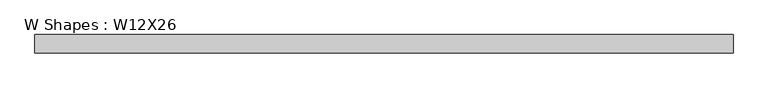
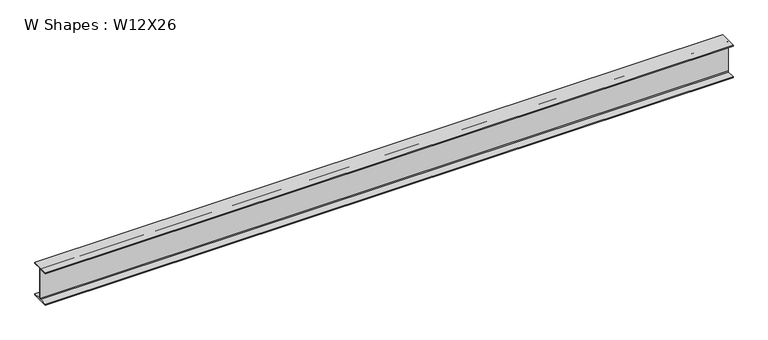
"""IFC4 building model written with IfcOpenShell, lengths in millimetres: beam geometry, W Shapes : W12X26."""

from ifc_helpers import new_model, si_unit, point, frame, frame_2d, origin, place, context, project, spatial, polyline, circle_curve, trimmed, segment, composite_curve, outline, extrude, source, transform, mapped, element, save


def w_shapes_w12x26_c2f357ce(model_context):
    return source(origin(), model_context, "Body", "SweptSolid", [
        extrude(outline(composite_curve([segment(polyline([(82.423, -145.288), (82.423, -154.94), (-82.423, -154.94), (-82.423, -145.288), (-10.541, -145.288)]), True, "CONTINUOUS"), segment(trimmed(circle_curve(frame_2d((-10.541, -137.668)), 7.62), [point((-10.541, -145.288))], [point((-2.921, -137.668))], True, "CARTESIAN"), True, "CONTINUOUS"), segment(polyline([(-2.921, -137.668), (-2.921, 137.668)]), True, "CONTINUOUS"), segment(trimmed(circle_curve(frame_2d((-10.541, 137.668)), 7.62), [point((-2.921, 137.668))], [point((-10.541, 145.288))], True, "CARTESIAN"), True, "CONTINUOUS"), segment(polyline([(-10.541, 145.288), (-82.423, 145.288), (-82.423, 154.94), (82.423, 154.94), (82.423, 145.288), (10.541, 145.288)]), True, "CONTINUOUS"), segment(trimmed(circle_curve(frame_2d((10.541, 137.668)), 7.62), [point((10.541, 145.288))], [point((2.921, 137.668))], True, "CARTESIAN"), True, "CONTINUOUS"), segment(polyline([(2.921, 137.668), (2.921, -137.668)]), True, "CONTINUOUS"), segment(trimmed(circle_curve(frame_2d((10.541, -137.668)), 7.62), [point((2.921, -137.668))], [point((10.541, -145.288))], True, "CARTESIAN"), True, "CONTINUOUS"), segment(polyline([(10.541, -145.288), (82.423, -145.288)]), True, "CONTINUOUS")], self_intersect=False)), frame((-3096.6223521, 0.0, 0.0), z_axis=(1.0, 0.0, 0.0), x_axis=(0.0, 1.0, 0.0)), (0.0, 0.0, 1.0), 6209.8237588),
    ])


if __name__ == "__main__":
    model = new_model("IFC4")
    model_context = context("Model", 3, world=origin())
    ifc_project = project(units=[si_unit("LENGTHUNIT", "METRE", prefix="MILLI")], contexts=[model_context])
    site = spatial("IfcSite", under=ifc_project)
    building = spatial("IfcBuilding", under=site)
    placement = place(None, origin())
    w_shapes_w12x26_shape = w_shapes_w12x26_c2f357ce(model_context)
    element("IfcBeam", 1, ObjectType="W Shapes : W12X26", at=placement, inside=building, context=model_context, shape_type="MappedRepresentation", body=[
        mapped(w_shapes_w12x26_shape, transform((0.0, 0.0, 0.0), x_axis=(1.0, 0.0, 0.0), y_axis=(0.0, 1.0, 0.0), z_axis=(0.0, 0.0, 1.0))),
    ])
    save(model, "model.ifc")
